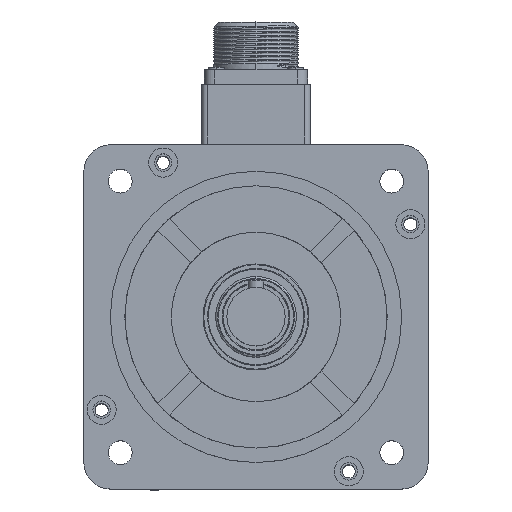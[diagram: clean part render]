
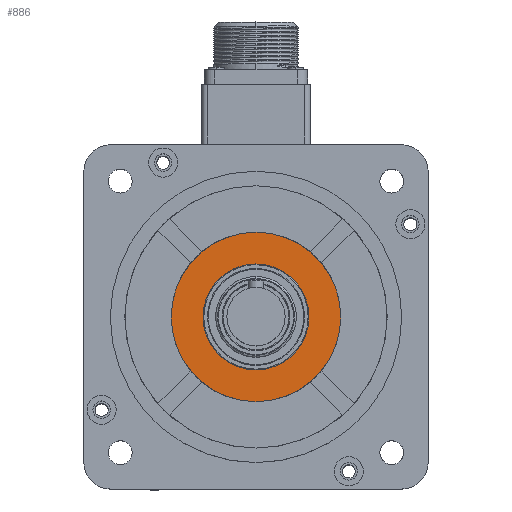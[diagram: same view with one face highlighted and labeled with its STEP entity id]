
A CAD part, top view. The second image highlights one B-rep face of the part: STEP entity #886.
In plain terms, the highlighted planar face has unit normal (0, 0, 1).
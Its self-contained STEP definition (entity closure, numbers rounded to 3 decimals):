
#488 = EDGE_CURVE ( 'NONE', #52409, #52534, #38559, .T. ) ;
#695 = EDGE_CURVE ( 'NONE', #52703, #52639, #36900, .T. ) ;
#886 = ADVANCED_FACE ( 'NONE', ( #65756, #65757 ), #65758, .F. ) ;
#6608 = EDGE_CURVE ( 'NONE', #52534, #52409, #20400, .T. ) ;
#6791 = EDGE_CURVE ( 'NONE', #52639, #52703, #20034, .T. ) ;
#15470 = CARTESIAN_POINT ( 'NONE',  ( 0., 0., 121.5 ) ) ;
#15471 = DIRECTION ( 'NONE',  ( 0., 0., 1. ) ) ;
#15472 = DIRECTION ( 'NONE',  ( 0., -1., 0. ) ) ;
#20023 = AXIS2_PLACEMENT_3D ( 'NONE', #45451, #45452, #45453 ) ;
#20034 = CIRCLE ( 'NONE', #20023, 32. ) ;
#20398 = AXIS2_PLACEMENT_3D ( 'NONE', #44763, #44764, #44765 ) ;
#20400 = CIRCLE ( 'NONE', #20398, 20. ) ;
#27754 = CARTESIAN_POINT ( 'NONE',  ( 0., 20., 121.5 ) ) ;
#27807 = CARTESIAN_POINT ( 'NONE',  ( 0., -20., 121.5 ) ) ;
#28444 = CARTESIAN_POINT ( 'NONE',  ( 0., -32., 121.5 ) ) ;
#28479 = CARTESIAN_POINT ( 'NONE',  ( 0., 32., 121.5 ) ) ;
#36885 = AXIS2_PLACEMENT_3D ( 'NONE', #43232, #43233, #43234 ) ;
#36900 = CIRCLE ( 'NONE', #36885, 32. ) ;
#37087 = AXIS2_PLACEMENT_3D ( 'NONE', #65752, #65760, #65761 ) ;
#38430 = AXIS2_PLACEMENT_3D ( 'NONE', #15470, #15471, #15472 ) ;
#38559 = CIRCLE ( 'NONE', #38430, 20. ) ;
#43232 = CARTESIAN_POINT ( 'NONE',  ( 0., 0., 121.5 ) ) ;
#43233 = DIRECTION ( 'NONE',  ( 0., 0., -1. ) ) ;
#43234 = DIRECTION ( 'NONE',  ( 0., -1., 0. ) ) ;
#44763 = CARTESIAN_POINT ( 'NONE',  ( 0., 0., 121.5 ) ) ;
#44764 = DIRECTION ( 'NONE',  ( 0., 0., 1. ) ) ;
#44765 = DIRECTION ( 'NONE',  ( 0., -1., 0. ) ) ;
#45451 = CARTESIAN_POINT ( 'NONE',  ( 0., 0., 121.5 ) ) ;
#45452 = DIRECTION ( 'NONE',  ( 0., 0., -1. ) ) ;
#45453 = DIRECTION ( 'NONE',  ( 0., -1., 0. ) ) ;
#51634 = ORIENTED_EDGE ( 'NONE', *, *, #6791, .F. ) ;
#51635 = ORIENTED_EDGE ( 'NONE', *, *, #695, .F. ) ;
#51638 = ORIENTED_EDGE ( 'NONE', *, *, #6608, .F. ) ;
#51640 = ORIENTED_EDGE ( 'NONE', *, *, #488, .F. ) ;
#52409 = VERTEX_POINT ( 'NONE', #27754 ) ;
#52534 = VERTEX_POINT ( 'NONE', #27807 ) ;
#52639 = VERTEX_POINT ( 'NONE', #28444 ) ;
#52703 = VERTEX_POINT ( 'NONE', #28479 ) ;
#55751 = EDGE_LOOP ( 'NONE', ( #51638, #51640 ) ) ;
#55839 = EDGE_LOOP ( 'NONE', ( #51634, #51635 ) ) ;
#65752 = CARTESIAN_POINT ( 'NONE',  ( -20., 0., 121.5 ) ) ;
#65756 = FACE_OUTER_BOUND ( 'NONE', #55839, .T. ) ;
#65757 = FACE_BOUND ( 'NONE', #55751, .T. ) ;
#65758 = PLANE ( 'NONE',  #37087 ) ;
#65760 = DIRECTION ( 'NONE',  ( 0., 0., -1. ) ) ;
#65761 = DIRECTION ( 'NONE',  ( 0., -1., 0. ) ) ;
